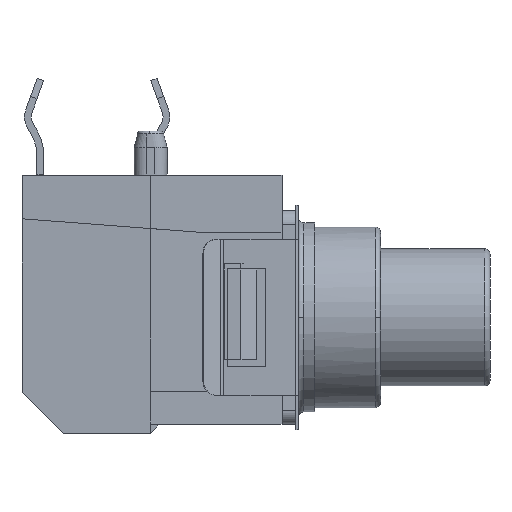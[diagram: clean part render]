
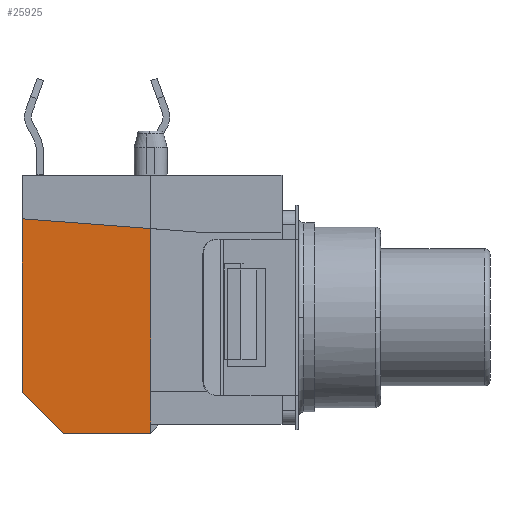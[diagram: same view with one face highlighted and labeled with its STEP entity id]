
A CAD part, front view. The second image highlights one B-rep face of the part: STEP entity #25925.
In plain terms, the highlighted planar face has unit normal (-0.053, -0.999, 0).
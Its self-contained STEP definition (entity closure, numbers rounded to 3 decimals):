
#11624 = CARTESIAN_POINT ( 'NONE',  ( -0.05, -3.85, -4.725 ) ) ;
#11627 = DIRECTION ( 'NONE',  ( 0.999, -0.053, 0. ) ) ;
#11628 = VECTOR ( 'NONE', #11627, 1000. ) ;
#11630 = CARTESIAN_POINT ( 'NONE',  ( -0.05, -3.85, -4.725 ) ) ;
#11632 = LINE ( 'NONE', #11630, #11628 ) ;
#11637 = CARTESIAN_POINT ( 'NONE',  ( -4.75, -3.6, -3.225 ) ) ;
#11639 = CARTESIAN_POINT ( 'NONE',  ( -3.25, -3.68, -4.725 ) ) ;
#11640 = DIRECTION ( 'NONE',  ( -0.707, 0.038, 0.707 ) ) ;
#11642 = VECTOR ( 'NONE', #11640, 1000. ) ;
#11644 = CARTESIAN_POINT ( 'NONE',  ( -3.25, -3.68, -4.725 ) ) ;
#11649 = DIRECTION ( 'NONE',  ( -0.999, 0.053, 0. ) ) ;
#11650 = DIRECTION ( 'NONE',  ( 0.053, 0.999, 0. ) ) ;
#11652 = CARTESIAN_POINT ( 'NONE',  ( -0.05, -3.85, -4.725 ) ) ;
#11654 = AXIS2_PLACEMENT_3D ( 'NONE', #11652, #11650, #11649 ) ;
#11655 = PLANE ( 'NONE',  #11654 ) ;
#11657 = LINE ( 'NONE', #11644, #11642 ) ;
#11659 = FACE_OUTER_BOUND ( 'NONE', #25926, .T. ) ;
#11739 = DIRECTION ( 'NONE',  ( 0., 0., -1. ) ) ;
#11740 = VECTOR ( 'NONE', #11739, 1000. ) ;
#11742 = CARTESIAN_POINT ( 'NONE',  ( -0.05, -3.85, -0.776 ) ) ;
#11744 = LINE ( 'NONE', #11742, #11740 ) ;
#11749 = CARTESIAN_POINT ( 'NONE',  ( -0.05, -3.85, -4.375 ) ) ;
#11751 = DIRECTION ( 'NONE',  ( 0., 0., -1. ) ) ;
#11753 = VECTOR ( 'NONE', #11751, 1000. ) ;
#11755 = CARTESIAN_POINT ( 'NONE',  ( -0.05, -3.85, -0.776 ) ) ;
#11756 = LINE ( 'NONE', #11755, #11753 ) ;
#11938 = DIRECTION ( 'NONE',  ( 0., 0., 1. ) ) ;
#11939 = VECTOR ( 'NONE', #11938, 1000. ) ;
#11941 = CARTESIAN_POINT ( 'NONE',  ( -4.75, -3.6, 0.75 ) ) ;
#11943 = LINE ( 'NONE', #11941, #11939 ) ;
#11948 = CARTESIAN_POINT ( 'NONE',  ( -4.75, -3.6, 3.125 ) ) ;
#11949 = DIRECTION ( 'NONE',  ( 0.996, -0.053, -0.075 ) ) ;
#11951 = VECTOR ( 'NONE', #11949, 1000. ) ;
#11952 = CARTESIAN_POINT ( 'NONE',  ( -4.75, -3.6, 3.125 ) ) ;
#11953 = LINE ( 'NONE', #11952, #11951 ) ;
#11958 = CARTESIAN_POINT ( 'NONE',  ( -0.05, -3.85, 2.769 ) ) ;
#11961 = DIRECTION ( 'NONE',  ( 0., 0., -1. ) ) ;
#11962 = VECTOR ( 'NONE', #11961, 1000. ) ;
#11964 = CARTESIAN_POINT ( 'NONE',  ( -0.05, -3.85, -0.185 ) ) ;
#11966 = LINE ( 'NONE', #11964, #11962 ) ;
#11971 = CARTESIAN_POINT ( 'NONE',  ( -0.05, -3.85, -3.175 ) ) ;
#25925 = ADVANCED_FACE ( 'NONE', ( #11659 ), #11655, .F. ) ;
#25926 = EDGE_LOOP ( 'NONE', ( #25927, #25931, #25934, #25937, #25995, #25998, #26001 ) ) ;
#25927 = ORIENTED_EDGE ( 'NONE', *, *, #25928, .F. ) ;
#25928 = EDGE_CURVE ( 'NONE', #25929, #25930, #11657, .T. ) ;
#25929 = VERTEX_POINT ( 'NONE', #11639 ) ;
#25930 = VERTEX_POINT ( 'NONE', #11637 ) ;
#25931 = ORIENTED_EDGE ( 'NONE', *, *, #25932, .T. ) ;
#25932 = EDGE_CURVE ( 'NONE', #25929, #25933, #11632, .T. ) ;
#25933 = VERTEX_POINT ( 'NONE', #11624 ) ;
#25934 = ORIENTED_EDGE ( 'NONE', *, *, #25935, .F. ) ;
#25935 = EDGE_CURVE ( 'NONE', #25936, #25933, #11756, .T. ) ;
#25936 = VERTEX_POINT ( 'NONE', #11749 ) ;
#25937 = ORIENTED_EDGE ( 'NONE', *, *, #25938, .F. ) ;
#25938 = EDGE_CURVE ( 'NONE', #25994, #25936, #11744, .T. ) ;
#25994 = VERTEX_POINT ( 'NONE', #11971 ) ;
#25995 = ORIENTED_EDGE ( 'NONE', *, *, #25996, .F. ) ;
#25996 = EDGE_CURVE ( 'NONE', #25997, #25994, #11966, .T. ) ;
#25997 = VERTEX_POINT ( 'NONE', #11958 ) ;
#25998 = ORIENTED_EDGE ( 'NONE', *, *, #25999, .F. ) ;
#25999 = EDGE_CURVE ( 'NONE', #26000, #25997, #11953, .T. ) ;
#26000 = VERTEX_POINT ( 'NONE', #11948 ) ;
#26001 = ORIENTED_EDGE ( 'NONE', *, *, #26002, .F. ) ;
#26002 = EDGE_CURVE ( 'NONE', #25930, #26000, #11943, .T. ) ;
